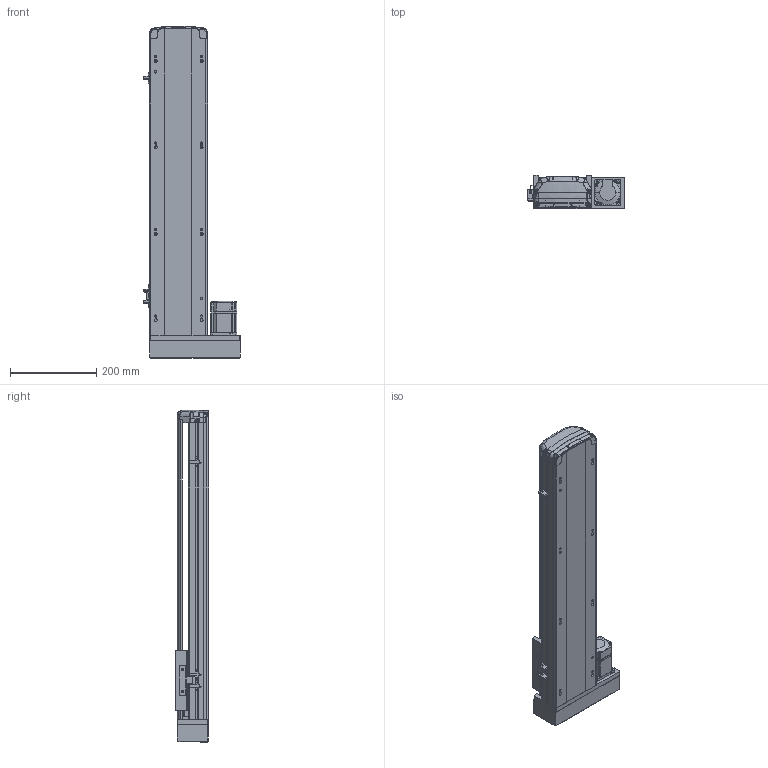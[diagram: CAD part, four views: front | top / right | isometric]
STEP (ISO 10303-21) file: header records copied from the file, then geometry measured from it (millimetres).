
FILE_DESCRIPTION (( 'STEP AP214' ), '1' );
FILE_NAME ('RTH14-XX-500-R-M20-C4.STEP', '2025-10-24T09:54:04', ( 'Microsoft' ), ( 'Microsoft' ), 'SwSTEP 2.0', 'SolidWorks 2018', '' );
FILE_SCHEMA (( 'AUTOMOTIVE_DESIGN' ));
Length unit declared in the file: millimetre
Products named in the file (10): N_RTH14-M-007P奻裔^RTH14-XX-XX-R-M20-C4; N_RTH14-R-004-SFSR16賑釱^RTH14-XX-XX-R-M20-C4; N_RTH14-M-011P菁釱^RTH14-XX-XX-R-M20-C4; N_RTH14-GY-001P^RTH14-XX-XX-R-M20-C4; N_RTH13-L-012感应片（外置）^RTH14-XX-XX-R-M20-C4; N_OMRON EE-SX672 传感器^RTH14-XX-XX-R-M20-C4; RTH14-XX-500-R-M20-C4; N_MSMD022P1AA_200W^RTH14-XX-XX-R-M20-C4; N_RTH13-L-018 裔赽^RTH14-XX-XX-R-M20-C4; N_RTH13-L-008-P20 萇儂啣酘蛌殏^RTH14-XX-XX-R-M20-C4
Assembly tree (11 placements, depth 2):
  RTH14-XX-500-R-M20-C4
    N_RTH14-M-011P菁釱^RTH14-XX-XX-R-M20-C4
    N_RTH14-M-007P奻裔^RTH14-XX-XX-R-M20-C4
    N_MSMD022P1AA_200W^RTH14-XX-XX-R-M20-C4
    N_RTH13-L-008-P20 萇儂啣酘蛌殏^RTH14-XX-XX-R-M20-C4
    N_RTH13-L-018 裔赽^RTH14-XX-XX-R-M20-C4
    N_RTH13-L-012感应片（外置）^RTH14-XX-XX-R-M20-C4
    N_OMRON EE-SX672 传感器^RTH14-XX-XX-R-M20-C4  x3
    N_RTH14-R-004-SFSR16賑釱^RTH14-XX-XX-R-M20-C4
    N_RTH14-GY-001P^RTH14-XX-XX-R-M20-C4
Bounding box: 224 x 78.03 x 767.73 mm (x, y, z)
Volume: 3552207.1 mm3; surface area: 845282.1 mm2
Topology: 10 solids, 12 shells, 1855 faces, 5188 edges, 3401 vertices
Faces by surface type: plane 987, cylinder 473, bspline 346, cone 45, torus 4
Entity records: 56579 total; most frequent: CARTESIAN_POINT 22959, ORIENTED_EDGE 7433, DIRECTION 5926, EDGE_CURVE 3722, VERTEX_POINT 2437, LINE 2140, VECTOR 2140, AXIS2_PLACEMENT_3D 1893
